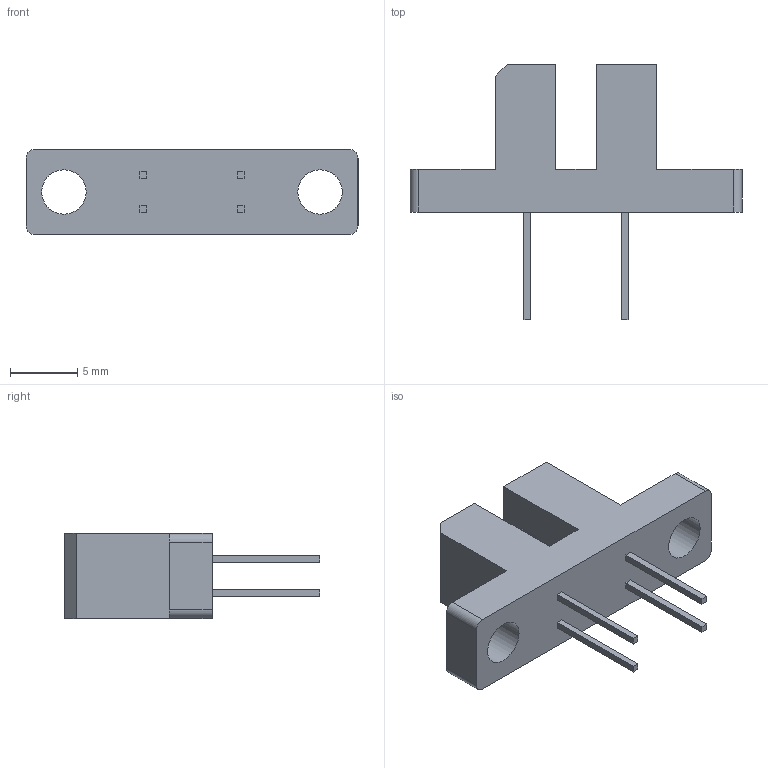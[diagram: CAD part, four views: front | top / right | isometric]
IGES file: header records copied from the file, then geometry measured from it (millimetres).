
Global section: file name: No Iges File Name specified; native system: AutoDesk Inventor R6.0; preprocessor: AutoDesk Inventor Iges Exporter R6.0; author: No Author specified; organization: No Organization specified; date: 20080102.203854; units: inch
Bounding box: 24.69 x 19 x 6.32 mm (x, y, z)
Surface area: 937.6 mm2 (no closed solid volume)
Topology: 0 solids, 0 shells, 51 faces, 258 edges, 256 vertices
Faces by surface type: plane 30, bspline 16, revolution 5
